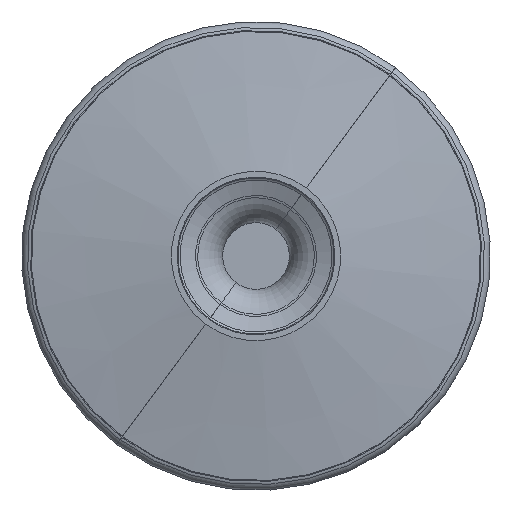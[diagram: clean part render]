
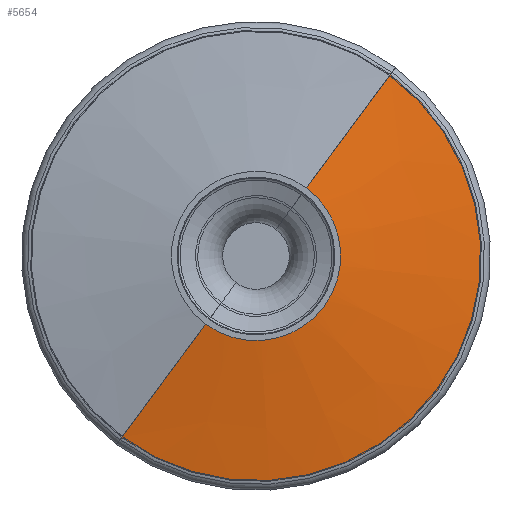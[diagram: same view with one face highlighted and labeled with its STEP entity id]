
A CAD part, front view. The second image highlights one B-rep face of the part: STEP entity #5654.
In plain terms, the highlighted conical face has half-angle 80.906 degrees and reference radius 86.632 mm.
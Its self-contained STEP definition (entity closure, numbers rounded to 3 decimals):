
#935 = DIRECTION ( 'NONE',  ( 0., -1., 0. ) ) ;
#1142 = DIRECTION ( 'NONE',  ( 0., 0.158, -0.987 ) ) ;
#1595 = CARTESIAN_POINT ( 'NONE',  ( 0., 79.337, 25.945 ) ) ;
#1827 = CARTESIAN_POINT ( 'NONE',  ( 0., 79.337, -25.945 ) ) ;
#2032 = CARTESIAN_POINT ( 'NONE',  ( 0., 89.05, 86.632 ) ) ;
#2258 = DIRECTION ( 'NONE',  ( 0., 0., 1. ) ) ;
#2267 = CARTESIAN_POINT ( 'NONE',  ( 0., 89.05, 0. ) ) ;
#2297 = DIRECTION ( 'NONE',  ( 0., 1., 0. ) ) ;
#2451 = ORIENTED_EDGE ( 'NONE', *, *, #5477, .T. ) ;
#2452 = CARTESIAN_POINT ( 'NONE',  ( 0., 89.05, -86.632 ) ) ;
#3056 = FACE_OUTER_BOUND ( 'NONE', #4883, .T. ) ;
#3074 = ORIENTED_EDGE ( 'NONE', *, *, #3384, .F. ) ;
#3107 = CARTESIAN_POINT ( 'NONE',  ( 0., 89.05, 0. ) ) ;
#3119 = DIRECTION ( 'NONE',  ( 0., -1., 0. ) ) ;
#3384 = EDGE_CURVE ( 'NONE', #5454, #5635, #7151, .T. ) ;
#3719 = CARTESIAN_POINT ( 'NONE',  ( 0., 89.05, 86.632 ) ) ;
#4050 = EDGE_CURVE ( 'NONE', #6284, #4515, #8620, .T. ) ;
#4118 = AXIS2_PLACEMENT_3D ( 'NONE', #7105, #935, #4484 ) ;
#4371 = DIRECTION ( 'NONE',  ( 0., 0., -1. ) ) ;
#4484 = DIRECTION ( 'NONE',  ( 0., 0., -1. ) ) ;
#4506 = VECTOR ( 'NONE', #1142, 1000. ) ;
#4515 = VERTEX_POINT ( 'NONE', #5109 ) ;
#4649 = VECTOR ( 'NONE', #8492, 1000. ) ;
#4883 = EDGE_LOOP ( 'NONE', ( #7433, #8030, #2451, #3074 ) ) ;
#5109 = CARTESIAN_POINT ( 'NONE',  ( 0., 89.05, -86.632 ) ) ;
#5250 = CONICAL_SURFACE ( 'NONE', #5534, 86.632, 1.412 ) ;
#5454 = VERTEX_POINT ( 'NONE', #1595 ) ;
#5477 = EDGE_CURVE ( 'NONE', #4515, #5635, #6975, .T. ) ;
#5534 = AXIS2_PLACEMENT_3D ( 'NONE', #3107, #2297, #2258 ) ;
#5635 = VERTEX_POINT ( 'NONE', #2032 ) ;
#5654 = ADVANCED_FACE ( 'NONE', ( #3056 ), #5250, .T. ) ;
#6284 = VERTEX_POINT ( 'NONE', #1827 ) ;
#6975 = CIRCLE ( 'NONE', #7545, 86.632 ) ;
#7105 = CARTESIAN_POINT ( 'NONE',  ( 0., 79.337, 0. ) ) ;
#7151 = LINE ( 'NONE', #3719, #4649 ) ;
#7419 = EDGE_CURVE ( 'NONE', #6284, #5454, #8005, .T. ) ;
#7433 = ORIENTED_EDGE ( 'NONE', *, *, #7419, .F. ) ;
#7545 = AXIS2_PLACEMENT_3D ( 'NONE', #2267, #3119, #4371 ) ;
#8005 = CIRCLE ( 'NONE', #4118, 25.945 ) ;
#8030 = ORIENTED_EDGE ( 'NONE', *, *, #4050, .T. ) ;
#8492 = DIRECTION ( 'NONE',  ( 0., 0.158, 0.987 ) ) ;
#8620 = LINE ( 'NONE', #2452, #4506 ) ;
